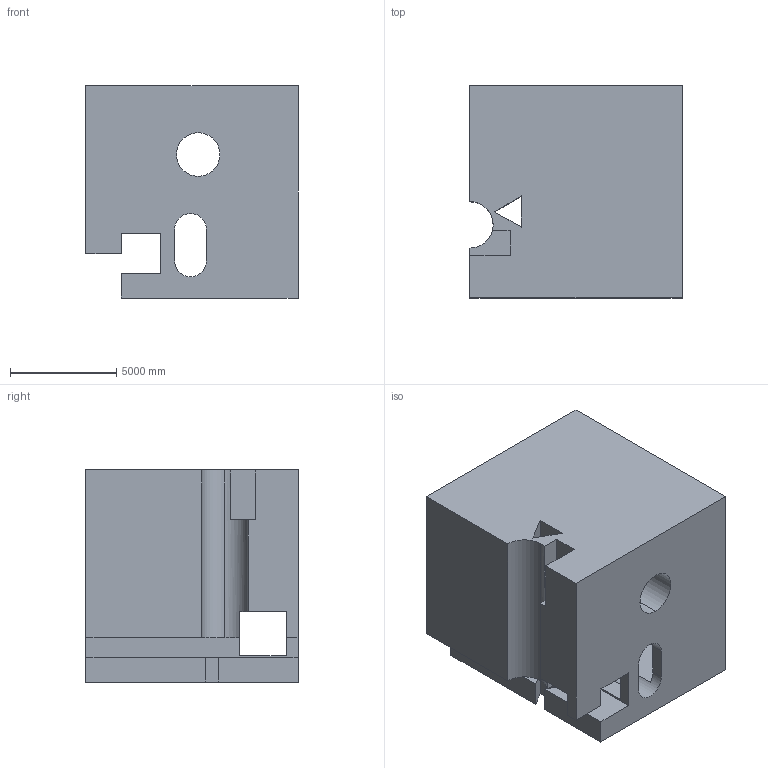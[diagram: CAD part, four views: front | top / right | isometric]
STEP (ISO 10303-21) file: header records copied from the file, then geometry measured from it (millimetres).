
FILE_DESCRIPTION (( 'STEP AP203' ), '1' );
FILE_NAME ('1795.STEP', '2022-08-19T12:57:09', ( 'user' ), ( '' ), 'SwSTEP 2.0', 'SolidWorks 2021', '' );
FILE_SCHEMA (( 'CONFIG_CONTROL_DESIGN' ));
Length unit declared in the file: centimetre
Products named in the file (1): 1795
Bounding box: 10000 x 10000 x 10000 mm (x, y, z)
Volume: 802627320545.3 mm3; surface area: 835479886.6 mm2
Topology: 1 solids, 1 shells, 47 faces, 147 edges, 98 vertices
Faces by surface type: plane 40, cylinder 7
Entity records: 1722 total; most frequent: ORIENTED_EDGE 294, CARTESIAN_POINT 293, DIRECTION 267, EDGE_CURVE 147, VECTOR 123, LINE 123, VERTEX_POINT 98, AXIS2_PLACEMENT_3D 72
